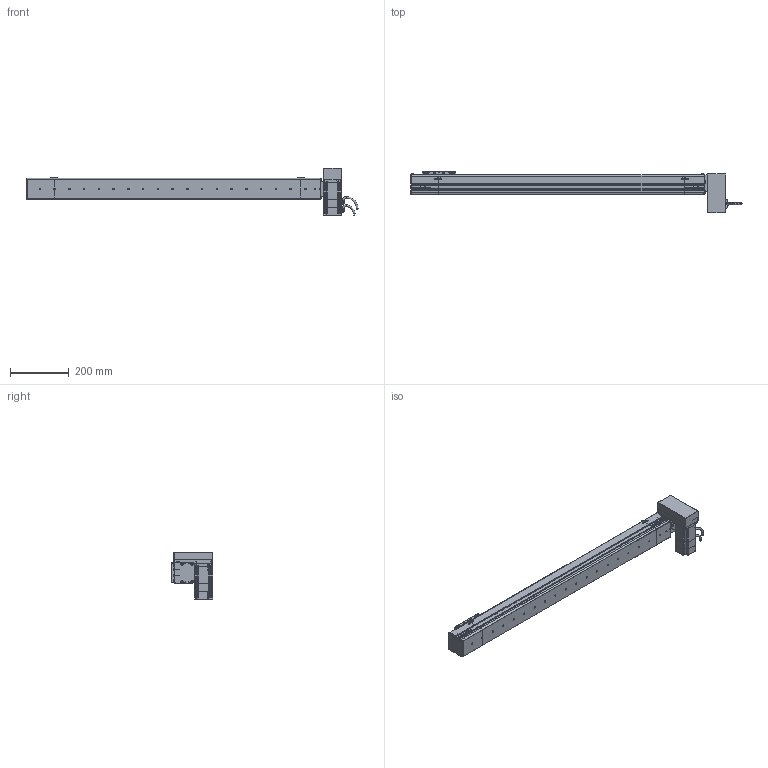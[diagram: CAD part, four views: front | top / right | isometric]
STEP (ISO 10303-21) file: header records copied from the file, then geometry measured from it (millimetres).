
FILE_DESCRIPTION (( 'STEP AP214' ), '1' );
FILE_NAME ('S07 CBN LU S900.STEP', '2010-06-29T10:13:59', ( 'Conseil Régional Haute-Normandie' ), ( 'Conseil Régional Haute-Normandie' ), 'SwSTEP 2.0', 'SolidWorks 2010', '' );
FILE_SCHEMA (( 'AUTOMOTIVE_DESIGN' ));
Length unit declared in the file: millimetre
Products named in the file (31): Cache Support Moteur LU_Default; P1_Default; Rondelle de Serrage LU_Default; 60BLDC90A-640_Default; Support Moteur LU_Default; Couvercle LU_Default; vis M5 L8_Default; vis M5 L15_Default; plaque de serrage Tail_Default; Plaque de bout Tail_Default; support chariot_Default; chariot_Default; Chariot S07_Default; Couvercle Tail_Default; Corp Tail_Default; Tail S07 Tail_Default; Corp S07 S900_Default; VisM3_Default; Conecteur2 60BLDC_Default; P2 90A_Default; Couvercle S07 S900_Default; Conecteur 60BLDC_Default; Axe 60BLDC_Default; P4_Default; P3 90A_Default; Head LU_Default; S07 CBN LU S900; plaque de serrage LU_Default; Plaque de bout LU_Default; Corp LU_Default
Assembly tree (71 placements, depth 4):
  S07 CBN LU S900
    Head LU_Default
      Corp LU_Default
      plaque de serrage LU_Default
      vis M5 L15_Default  x16
      Rondelle de Serrage LU_Default  x3
      Cache Support Moteur LU_Default
      Plaque de bout LU_Default
      Couvercle LU_Default
      60BLDC90A-640_Default
        VisM3_Default  x12
        P4_Default
        P3 90A_Default
        Conecteur 60BLDC_Default
        Axe 60BLDC_Default
        Conecteur2 60BLDC_Default
        P2 90A_Default
        P1_Default
      Support Moteur LU_Default
    Chariot S07_Default
      vis M5 L8_Default  x8
      support chariot_Default
      chariot_Default
    Corp S07 S900_Default
      Corp S07 S900_Default
      Couvercle S07 S900_Default
    Tail S07 Tail_Default
      vis M5 L15_Default  x6
      Corp Tail_Default
      plaque de serrage Tail_Default
      Couvercle Tail_Default
      Plaque de bout Tail_Default
Bounding box: 1125.7 x 142 x 162 mm (x, y, z)
Volume: 5652271.8 mm3; surface area: 718981 mm2
Topology: 108 solids, 108 shells, 3904 faces, 9614 edges, 6188 vertices
Faces by surface type: plane 2254, bspline 756, cylinder 683, torus 112, cone 95, sphere 4
Entity records: 153673 total; most frequent: CARTESIAN_POINT 79643, ORIENTED_EDGE 14748, DIRECTION 11027, EDGE_CURVE 7374, VERTEX_POINT 4873, LINE 4781, VECTOR 4781, EDGE_LOOP 3165
